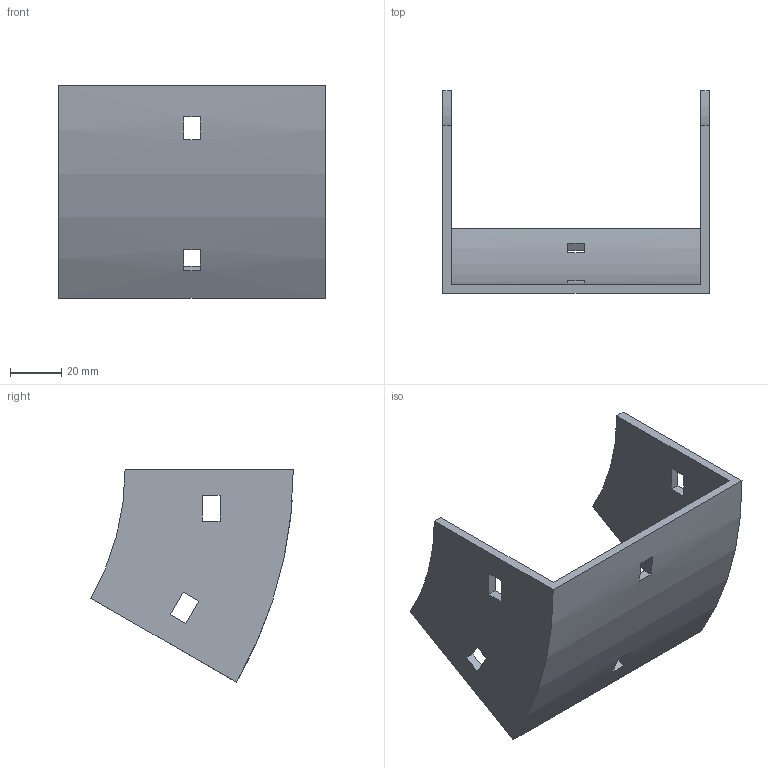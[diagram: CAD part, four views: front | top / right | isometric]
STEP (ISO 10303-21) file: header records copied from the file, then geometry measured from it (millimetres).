
FILE_DESCRIPTION (( 'STEP AP214' ), '1' );
FILE_NAME ('32B1H100.step', '2025-02-21T09:43:56', ( '' ), ( '' ), 'SwSTEP 2.0', 'SolidWorks 2023', '' );
FILE_SCHEMA (( 'AUTOMOTIVE_DESIGN' ));
Length unit declared in the file: millimetre
Products named in the file (1): 32B1H100
Bounding box: 104 x 78.9 x 82.75 mm (x, y, z)
Volume: 59586.1 mm3; surface area: 36712.3 mm2
Topology: 1 solids, 1 shells, 34 faces, 96 edges, 64 vertices
Faces by surface type: plane 30, cylinder 4
Entity records: 1143 total; most frequent: CARTESIAN_POINT 195, ORIENTED_EDGE 192, DIRECTION 182, EDGE_CURVE 96, LINE 80, VECTOR 80, VERTEX_POINT 64, AXIS2_PLACEMENT_3D 51
